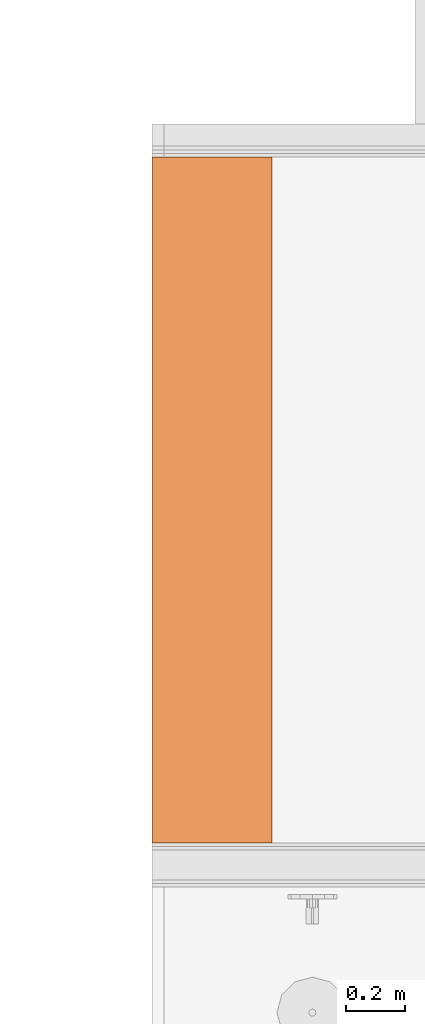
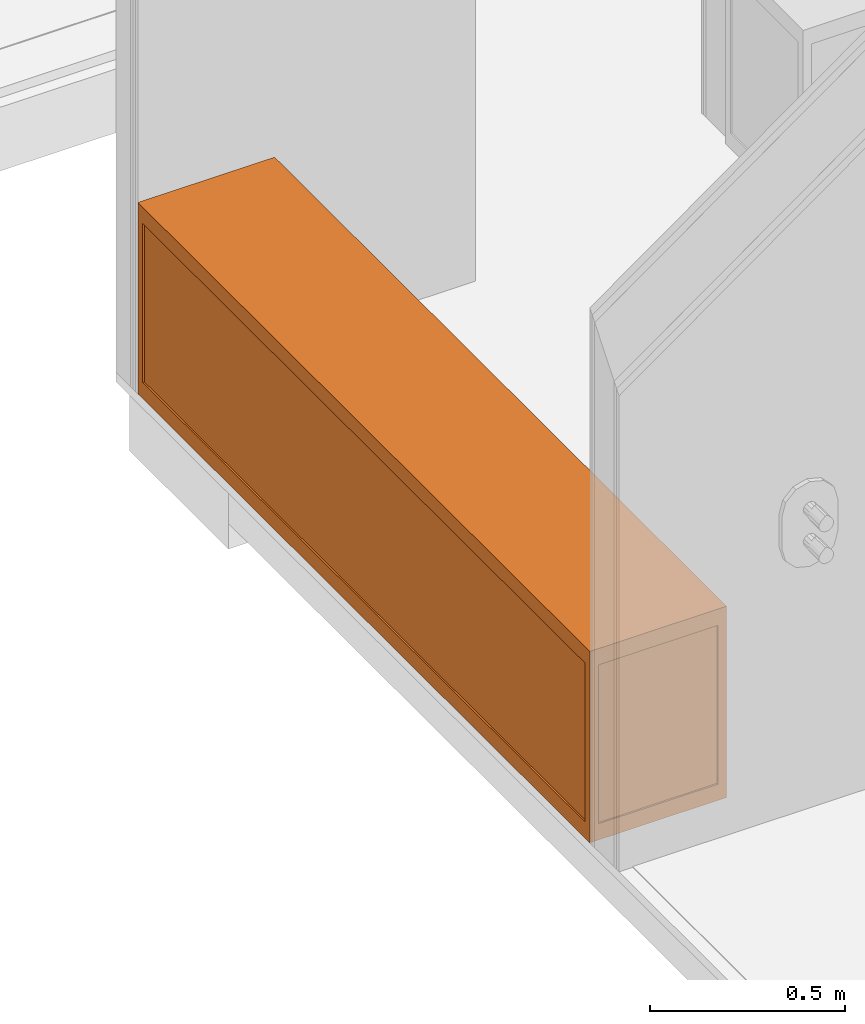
# One storey, part 33 of 35: 1 proxy.
"""IFC2X3 building model written with IfcOpenShell, lengths in millimetres."""

from ifc_helpers import new_model, entity, si_unit, converted_unit, derived_unit, money_unit, direction, frame, origin_with_axes, place, context, subcontext, project, spatial, faceted_brep, type_object, element, save


model = new_model("IFC2X3")

# Units and contexts
model_context = context("Model", 3, precision=0.01, world=origin_with_axes(), true_north=direction((0.0, 1.0)))
body_context = subcontext(model_context, "Body", "Model", "MODEL_VIEW")
ifc_project = project(units=[si_unit("LENGTHUNIT", "METRE", prefix="MILLI"), si_unit("AREAUNIT", "SQUARE_METRE"), si_unit("VOLUMEUNIT", "CUBIC_METRE"), converted_unit("PLANEANGLEUNIT", "DEGREE", entity("IfcPlaneAngleMeasure", 0.0174532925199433), si_unit("PLANEANGLEUNIT", "RADIAN"), dimensions=[0, 0, 0, 0, 0, 0, 0]), money_unit("EUR"), converted_unit("TIMEUNIT", "Year", entity("IfcTimeMeasure", 31557600.0), si_unit("TIMEUNIT", "SECOND"), dimensions=[0, 0, 1, 0, 0, 0, 0]), si_unit("MASSUNIT", "GRAM", prefix="KILO"), si_unit("THERMODYNAMICTEMPERATUREUNIT", "DEGREE_CELSIUS"), si_unit("LUMINOUSINTENSITYUNIT", "LUMEN"), si_unit("ENERGYUNIT", "JOULE", prefix="MEGA"), derived_unit("THERMALCONDUCTANCEUNIT", [(si_unit("POWERUNIT", "WATT"), 1), (si_unit("LENGTHUNIT", "METRE"), -1), (si_unit("THERMODYNAMICTEMPERATUREUNIT", "KELVIN"), -1)]), derived_unit("SPECIFICHEATCAPACITYUNIT", [(si_unit("ENERGYUNIT", "JOULE"), 1), (si_unit("MASSUNIT", "GRAM", prefix="KILO"), -1), (si_unit("THERMODYNAMICTEMPERATUREUNIT", "KELVIN"), -1)]), derived_unit("MASSDENSITYUNIT", [(si_unit("MASSUNIT", "GRAM", prefix="KILO"), 1), (si_unit("VOLUMEUNIT", "CUBIC_METRE"), -1)])], contexts=[model_context])

# Site, building, storey
site_placement = place(None, origin_with_axes())
site = spatial("IfcSite", under=ifc_project, at=site_placement, Name="<site naam>", CompositionType="ELEMENT")
building_placement = place(site_placement, origin_with_axes())
building = spatial("IfcBuilding", under=site, at=building_placement, Name="<Naam gebouw>", CompositionType="ELEMENT")
storey_placement = place(building_placement, frame((0.0, 0.0, 6345.0), z_axis=(0.0, 0.0, 1.0), x_axis=(1.0, 0.0, 0.0)))
storey = spatial("IfcBuildingStorey", under=building, at=storey_placement, Name="02 2e tussenverdieping", CompositionType="ELEMENT", Elevation=6345.0)

# Proxy
building_element_proxy_type = type_object("IfcBuildingElementProxyType", Name="Boekenkast 04 27 KM", PredefinedType="USERDEFINED")
proxy_placement = place(storey_placement, frame((52540.91710476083, 4572.500000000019, 0.0), z_axis=(0.0, 0.0, 1.0), x_axis=(0.0, 1.0, 0.0)))
element("IfcBuildingElementProxy", 1, at=proxy_placement, inside=storey, type_object=building_element_proxy_type, Name="72_Brandslanghaspelkast_Lege", ObjectType="Massing", context=body_context, shape_type="Brep", body=[
    faceted_brep([(0.0, 0.0, 0.0), (0.0, 0.0, 600.0), (-25.4, 0.0, 600.0), (-25.4, 0.0, 0.0), (0.0, 25.4, 0.0), (0.0, 25.4, 600.0), (-5.0, 25.4, 600.0), (-5.0, 5.0, 600.0), (-25.4, 5.0, 600.0), (-25.4, 5.0, 0.0), (-5.0, 5.0, 0.0), (-5.0, 25.4, 0.0)], [[[0, 1, 2, 3]], [[4, 5, 1, 0]], [[1, 5, 6, 7, 8, 2]], [[3, 2, 8, 9]], [[0, 3, 9, 10, 11, 4]], [[11, 6, 5, 4]], [[10, 7, 6, 11]], [[9, 8, 7, 10]]]),
    faceted_brep([(-2322.499907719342, 25.4, 0.0), (-2322.499907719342, 25.4, 600.0), (-2317.499907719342, 25.4, 600.0), (-2317.499907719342, 25.4, 0.0), (-2322.499907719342, 0.0, 0.0), (-2322.499907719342, 0.0, 600.0), (-2297.099907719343, 0.0, 600.0), (-2297.099907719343, 5.0, 600.0), (-2317.499907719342, 5.0, 600.0), (-2317.499907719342, 5.0, 0.0), (-2297.099907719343, 5.0, 0.0), (-2297.099907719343, 0.0, 0.0)], [[[0, 1, 2, 3]], [[4, 5, 1, 0]], [[1, 5, 6, 7, 8, 2]], [[3, 2, 8, 9]], [[0, 3, 9, 10, 11, 4]], [[11, 6, 5, 4]], [[10, 7, 6, 11]], [[9, 8, 7, 10]]]),
    faceted_brep([(0.0, 380.5171133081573, 0.0), (0.0, 380.5171133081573, 600.0), (-5.0, 380.5171133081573, 600.0), (-5.0, 380.5171133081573, 0.0), (0.0, 405.9171133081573, 0.0), (0.0, 405.9171133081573, 600.0), (-25.4, 405.9171133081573, 600.0), (-25.4, 400.9171133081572, 600.0), (-5.0, 400.9171133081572, 600.0), (-5.0, 400.9171133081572, 0.0), (-25.4, 400.9171133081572, 0.0), (-25.4, 405.9171133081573, 0.0)], [[[0, 1, 2, 3]], [[4, 5, 1, 0]], [[1, 5, 6, 7, 8, 2]], [[3, 2, 8, 9]], [[0, 3, 9, 10, 11, 4]], [[11, 6, 5, 4]], [[10, 7, 6, 11]], [[9, 8, 7, 10]]]),
    faceted_brep([(-2322.499907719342, 405.9171133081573, 0.0), (-2322.499907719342, 405.9171133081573, 600.0), (-2297.099907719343, 405.9171133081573, 600.0), (-2297.099907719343, 405.9171133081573, 0.0), (-2322.499907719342, 380.5171133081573, 0.0), (-2322.499907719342, 380.5171133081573, 600.0), (-2317.499907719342, 380.5171133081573, 600.0), (-2317.499907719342, 400.9171133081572, 600.0), (-2297.099907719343, 400.9171133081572, 600.0), (-2297.099907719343, 400.9171133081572, 0.0), (-2317.499907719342, 400.9171133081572, 0.0), (-2317.499907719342, 380.5171133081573, 0.0)], [[[0, 1, 2, 3]], [[4, 5, 1, 0]], [[1, 5, 6, 7, 8, 2]], [[3, 2, 8, 9]], [[0, 3, 9, 10, 11, 4]], [[11, 6, 5, 4]], [[10, 7, 6, 11]], [[9, 8, 7, 10]]]),
    faceted_brep([(-5.0, 400.9171133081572, 0.0), (-5.0, 395.9171133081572, 0.0), (-2317.499907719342, 395.9171133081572, 0.0), (-2317.499907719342, 400.9171133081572, 0.0), (-5.0, 400.9171133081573, 549.2), (-5.0, 395.9171133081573, 549.2), (-2317.499907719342, 395.9171133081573, 549.2), (-2317.499907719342, 400.9171133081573, 549.2)], [[[0, 1, 2, 3]], [[4, 5, 1, 0]], [[1, 5, 6, 2]], [[3, 2, 6, 7]], [[0, 3, 7, 4]], [[7, 6, 5, 4]]]),
    faceted_brep([(-10.0, 395.9171133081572, 0.0), (-5.0, 395.9171133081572, 0.0), (-5.000000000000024, 5.000000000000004, 0.0), (-10.00000000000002, 5.000000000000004, 0.0), (-10.0, 395.9171133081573, 549.2), (-5.0, 395.9171133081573, 549.2), (-5.000000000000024, 5.00000000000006, 549.2), (-10.00000000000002, 5.00000000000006, 549.2)], [[[0, 1, 2, 3]], [[4, 5, 1, 0]], [[1, 5, 6, 2]], [[3, 2, 6, 7]], [[0, 3, 7, 4]], [[7, 6, 5, 4]]]),
    faceted_brep([(-2317.499907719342, 395.9171133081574, 0.0), (-2312.499907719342, 395.9171133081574, 0.0), (-2312.499907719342, 5.000000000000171, 0.0), (-2317.499907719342, 5.000000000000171, 0.0), (-2317.499907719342, 395.9171133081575, 549.2), (-2312.499907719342, 395.9171133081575, 549.2), (-2312.499907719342, 5.000000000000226, 549.2), (-2317.499907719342, 5.000000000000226, 549.2)], [[[0, 1, 2, 3]], [[4, 5, 1, 0]], [[1, 5, 6, 2]], [[3, 2, 6, 7]], [[0, 3, 7, 4]], [[7, 6, 5, 4]]]),
    faceted_brep([(-10.0, 10.0, 50.8), (-10.0, 10.0, 549.1999999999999), (-1161.249953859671, 10.0, 549.1999999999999), (-1161.249953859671, 10.0, 50.8), (-10.0, 15.0, 50.8), (-10.0, 15.0, 549.1999999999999), (-1161.249953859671, 15.0, 549.1999999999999), (-1161.249953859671, 15.0, 50.8)], [[[0, 1, 2, 3]], [[4, 5, 1, 0]], [[1, 5, 6, 2]], [[3, 2, 6, 7]], [[0, 3, 7, 4]], [[7, 6, 5, 4]]]),
    faceted_brep([(-1161.249953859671, 5.0, 50.8), (-1161.249953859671, 5.0, 549.1999999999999), (-2312.499907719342, 5.0, 549.1999999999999), (-2312.499907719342, 5.0, 50.8), (-1161.249953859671, 10.0, 50.8), (-1161.249953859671, 10.0, 549.1999999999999), (-2312.499907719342, 10.0, 549.1999999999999), (-2312.499907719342, 10.0, 50.8)], [[[0, 1, 2, 3]], [[4, 5, 1, 0]], [[1, 5, 6, 2]], [[3, 2, 6, 7]], [[0, 3, 7, 4]], [[7, 6, 5, 4]]]),
    faceted_brep([(-80.17211629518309, 10.00000000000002, 297.395277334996), (-80.4, 10.00000000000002, 300.0), (-80.17211629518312, 10.00000000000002, 302.6047226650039), (-79.49538931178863, 10.00000000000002, 305.130302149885), (-78.39038105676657, 10.00000000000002, 307.5), (-76.89066664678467, 10.00000000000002, 309.641814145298), (-75.04181414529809, 10.00000000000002, 311.4906666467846), (-72.89999999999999, 10.00000000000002, 312.9903810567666), (-70.53030214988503, 10.00000000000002, 314.0953893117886), (-68.00472266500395, 10.00000000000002, 314.7721162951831), (-65.4, 10.00000000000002, 315.0), (-62.79527733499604, 10.00000000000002, 314.7721162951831), (-60.26969785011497, 10.00000000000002, 314.0953893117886), (-57.90000000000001, 10.00000000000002, 312.9903810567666), (-55.75818585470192, 10.00000000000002, 311.4906666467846), (-53.90933335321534, 10.00000000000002, 309.641814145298), (-52.40961894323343, 10.00000000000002, 307.5), (-51.30461068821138, 10.00000000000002, 305.130302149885), (-50.62788370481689, 10.00000000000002, 302.6047226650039), (-50.40000000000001, 10.00000000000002, 300.0), (-50.62788370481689, 10.00000000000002, 297.395277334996), (-51.30461068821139, 10.00000000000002, 294.869697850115), (-52.40961894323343, 10.00000000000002, 292.5), (-53.90933335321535, 10.00000000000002, 290.3581858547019), (-55.75818585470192, 10.00000000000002, 288.5093333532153), (-57.90000000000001, 10.00000000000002, 287.0096189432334), (-60.26969785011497, 10.00000000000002, 285.9046106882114), (-62.79527733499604, 10.00000000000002, 285.2278837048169), (-65.4, 10.00000000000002, 285.0000000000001), (-68.00472266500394, 10.00000000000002, 285.2278837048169), (-70.53030214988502, 10.00000000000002, 285.9046106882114), (-72.89999999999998, 10.00000000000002, 287.0096189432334), (-75.04181414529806, 10.00000000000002, 288.5093333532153), (-76.89066664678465, 10.00000000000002, 290.3581858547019), (-78.39038105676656, 10.00000000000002, 292.5), (-79.4953893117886, 10.00000000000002, 294.869697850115), (-80.17211629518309, 8.00000000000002, 297.395277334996), (-80.4, 8.00000000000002, 300.0), (-80.17211629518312, 8.00000000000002, 302.6047226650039), (-79.49538931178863, 8.00000000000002, 305.130302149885), (-78.39038105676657, 8.00000000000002, 307.5), (-76.89066664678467, 8.00000000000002, 309.641814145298), (-75.04181414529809, 8.000000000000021, 311.4906666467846), (-72.89999999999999, 8.000000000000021, 312.9903810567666), (-70.53030214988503, 8.000000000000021, 314.0953893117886), (-68.00472266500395, 8.000000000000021, 314.7721162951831), (-65.4, 8.000000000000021, 315.0), (-62.79527733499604, 8.000000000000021, 314.7721162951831), (-60.26969785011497, 8.000000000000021, 314.0953893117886), (-57.90000000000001, 8.000000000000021, 312.9903810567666), (-55.75818585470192, 8.000000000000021, 311.4906666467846), (-53.90933335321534, 8.00000000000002, 309.641814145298), (-52.40961894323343, 8.00000000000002, 307.5), (-51.30461068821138, 8.00000000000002, 305.130302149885), (-50.62788370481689, 8.00000000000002, 302.6047226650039), (-50.40000000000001, 8.00000000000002, 300.0), (-50.62788370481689, 8.00000000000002, 297.395277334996), (-51.30461068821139, 8.00000000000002, 294.869697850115), (-52.40961894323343, 8.00000000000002, 292.5), (-53.90933335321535, 8.00000000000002, 290.3581858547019), (-55.75818585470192, 8.000000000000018, 288.5093333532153), (-57.90000000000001, 8.000000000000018, 287.0096189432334), (-60.26969785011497, 8.000000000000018, 285.9046106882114), (-62.79527733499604, 8.000000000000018, 285.2278837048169), (-65.4, 8.000000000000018, 285.0000000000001), (-68.00472266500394, 8.000000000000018, 285.2278837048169), (-70.53030214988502, 8.000000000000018, 285.9046106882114), (-72.89999999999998, 8.000000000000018, 287.0096189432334), (-75.04181414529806, 8.000000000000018, 288.5093333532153), (-76.89066664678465, 8.00000000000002, 290.3581858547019), (-78.39038105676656, 8.00000000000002, 292.5), (-79.4953893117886, 8.00000000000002, 294.869697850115)], [[[0, 1, 2, 3, 4, 5, 6, 7, 8, 9, 10, 11, 12, 13, 14, 15, 16, 17, 18, 19, 20, 21, 22, 23, 24, 25, 26, 27, 28, 29, 30, 31, 32, 33, 34, 35]], [[0, 36, 37, 1]], [[1, 37, 38, 2]], [[2, 38, 39, 3]], [[3, 39, 40, 4]], [[4, 40, 41, 5]], [[5, 41, 42, 6]], [[6, 42, 43, 7]], [[7, 43, 44, 8]], [[8, 44, 45, 9]], [[9, 45, 46, 10]], [[10, 46, 47, 11]], [[11, 47, 48, 12]], [[12, 48, 49, 13]], [[13, 49, 50, 14]], [[14, 50, 51, 15]], [[15, 51, 52, 16]], [[16, 52, 53, 17]], [[17, 53, 54, 18]], [[18, 54, 55, 19]], [[19, 55, 56, 20]], [[20, 56, 57, 21]], [[21, 57, 58, 22]], [[22, 58, 59, 23]], [[23, 59, 60, 24]], [[24, 60, 61, 25]], [[25, 61, 62, 26]], [[26, 62, 63, 27]], [[27, 63, 64, 28]], [[28, 64, 65, 29]], [[29, 65, 66, 30]], [[30, 66, 67, 31]], [[31, 67, 68, 32]], [[32, 68, 69, 33]], [[33, 69, 70, 34]], [[34, 70, 71, 35]], [[35, 71, 36, 0]], [[36, 71, 70, 69, 68, 67, 66, 65, 64, 63, 62, 61, 60, 59, 58, 57, 56, 55, 54, 53, 52, 51, 50, 49, 48, 47, 46, 45, 44, 43, 42, 41, 40, 39, 38, 37]]]),
    faceted_brep([(-2271.872024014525, 5.00000000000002, 297.395277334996), (-2272.099907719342, 5.00000000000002, 300.0), (-2271.872024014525, 5.00000000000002, 302.6047226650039), (-2271.195297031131, 5.00000000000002, 305.130302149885), (-2270.090288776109, 5.00000000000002, 307.5), (-2268.590574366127, 5.00000000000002, 309.641814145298), (-2266.74172186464, 5.00000000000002, 311.4906666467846), (-2264.599907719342, 5.00000000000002, 312.9903810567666), (-2262.230209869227, 5.00000000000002, 314.0953893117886), (-2259.704630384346, 5.00000000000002, 314.7721162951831), (-2257.099907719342, 5.00000000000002, 315.0), (-2254.495185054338, 5.00000000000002, 314.7721162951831), (-2251.969605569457, 5.00000000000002, 314.0953893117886), (-2249.599907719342, 5.00000000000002, 312.9903810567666), (-2247.458093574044, 5.00000000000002, 311.4906666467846), (-2245.609241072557, 5.00000000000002, 309.641814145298), (-2244.109526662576, 5.00000000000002, 307.5), (-2243.004518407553, 5.00000000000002, 305.130302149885), (-2242.327791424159, 5.00000000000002, 302.6047226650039), (-2242.099907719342, 5.00000000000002, 300.0), (-2242.327791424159, 5.00000000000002, 297.395277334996), (-2243.004518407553, 5.00000000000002, 294.869697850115), (-2244.109526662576, 5.000000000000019, 292.5), (-2245.609241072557, 5.000000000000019, 290.3581858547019), (-2247.458093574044, 5.000000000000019, 288.5093333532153), (-2249.599907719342, 5.000000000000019, 287.0096189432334), (-2251.969605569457, 5.000000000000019, 285.9046106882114), (-2254.495185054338, 5.000000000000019, 285.2278837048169), (-2257.099907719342, 5.000000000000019, 285.0000000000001), (-2259.704630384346, 5.000000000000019, 285.2278837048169), (-2262.230209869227, 5.000000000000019, 285.9046106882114), (-2264.599907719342, 5.000000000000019, 287.0096189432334), (-2266.74172186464, 5.000000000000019, 288.5093333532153), (-2268.590574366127, 5.000000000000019, 290.3581858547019), (-2270.090288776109, 5.000000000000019, 292.5), (-2271.195297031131, 5.00000000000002, 294.869697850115), (-2271.872024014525, 3.000000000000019, 297.395277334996), (-2272.099907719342, 3.000000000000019, 300.0), (-2271.872024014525, 3.000000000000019, 302.6047226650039), (-2271.195297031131, 3.00000000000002, 305.130302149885), (-2270.090288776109, 3.00000000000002, 307.5), (-2268.590574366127, 3.00000000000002, 309.641814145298), (-2266.74172186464, 3.00000000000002, 311.4906666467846), (-2264.599907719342, 3.00000000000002, 312.9903810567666), (-2262.230209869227, 3.00000000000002, 314.0953893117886), (-2259.704630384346, 3.00000000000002, 314.7721162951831), (-2257.099907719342, 3.00000000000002, 315.0), (-2254.495185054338, 3.00000000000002, 314.7721162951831), (-2251.969605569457, 3.00000000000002, 314.0953893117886), (-2249.599907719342, 3.00000000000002, 312.9903810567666), (-2247.458093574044, 3.00000000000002, 311.4906666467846), (-2245.609241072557, 3.00000000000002, 309.641814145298), (-2244.109526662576, 3.00000000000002, 307.5), (-2243.004518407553, 3.00000000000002, 305.130302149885), (-2242.327791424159, 3.000000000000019, 302.6047226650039), (-2242.099907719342, 3.000000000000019, 300.0), (-2242.327791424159, 3.000000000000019, 297.395277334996), (-2243.004518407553, 3.000000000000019, 294.869697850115), (-2244.109526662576, 3.000000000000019, 292.5), (-2245.609241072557, 3.000000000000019, 290.3581858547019), (-2247.458093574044, 3.000000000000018, 288.5093333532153), (-2249.599907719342, 3.000000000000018, 287.0096189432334), (-2251.969605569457, 3.000000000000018, 285.9046106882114), (-2254.495185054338, 3.000000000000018, 285.2278837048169), (-2257.099907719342, 3.000000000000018, 285.0000000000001), (-2259.704630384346, 3.000000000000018, 285.2278837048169), (-2262.230209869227, 3.000000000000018, 285.9046106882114), (-2264.599907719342, 3.000000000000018, 287.0096189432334), (-2266.74172186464, 3.000000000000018, 288.5093333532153), (-2268.590574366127, 3.000000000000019, 290.3581858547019), (-2270.090288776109, 3.000000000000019, 292.5), (-2271.195297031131, 3.000000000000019, 294.869697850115)], [[[0, 1, 2, 3, 4, 5, 6, 7, 8, 9, 10, 11, 12, 13, 14, 15, 16, 17, 18, 19, 20, 21, 22, 23, 24, 25, 26, 27, 28, 29, 30, 31, 32, 33, 34, 35]], [[0, 36, 37, 1]], [[1, 37, 38, 2]], [[2, 38, 39, 3]], [[3, 39, 40, 4]], [[4, 40, 41, 5]], [[5, 41, 42, 6]], [[6, 42, 43, 7]], [[7, 43, 44, 8]], [[8, 44, 45, 9]], [[9, 45, 46, 10]], [[10, 46, 47, 11]], [[11, 47, 48, 12]], [[12, 48, 49, 13]], [[13, 49, 50, 14]], [[14, 50, 51, 15]], [[15, 51, 52, 16]], [[16, 52, 53, 17]], [[17, 53, 54, 18]], [[18, 54, 55, 19]], [[19, 55, 56, 20]], [[20, 56, 57, 21]], [[21, 57, 58, 22]], [[22, 58, 59, 23]], [[23, 59, 60, 24]], [[24, 60, 61, 25]], [[25, 61, 62, 26]], [[26, 62, 63, 27]], [[27, 63, 64, 28]], [[28, 64, 65, 29]], [[29, 65, 66, 30]], [[30, 66, 67, 31]], [[31, 67, 68, 32]], [[32, 68, 69, 33]], [[33, 69, 70, 34]], [[34, 70, 71, 35]], [[35, 71, 36, 0]], [[36, 71, 70, 69, 68, 67, 66, 65, 64, 63, 62, 61, 60, 59, 58, 57, 56, 55, 54, 53, 52, 51, 50, 49, 48, 47, 46, 45, 44, 43, 42, 41, 40, 39, 38, 37]]]),
    faceted_brep([(-25.4, 405.9171133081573, 0.0), (-25.4, 405.9171133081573, 50.8), (-25.4, 400.9171133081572, 50.8), (-25.4, 400.9171133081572, 0.0), (-2297.099907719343, 405.9171133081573, 0.0), (-2297.099907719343, 405.9171133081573, 50.8), (-2297.099907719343, 400.9171133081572, 50.8), (-2297.099907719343, 400.9171133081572, 0.0)], [[[0, 1, 2, 3]], [[4, 5, 1, 0]], [[1, 5, 6, 2]], [[3, 2, 6, 7]], [[0, 3, 7, 4]], [[7, 6, 5, 4]]]),
    faceted_brep([(0.0, 25.4, 0.0), (0.0, 25.4, 50.8), (-5.0, 25.4, 50.8), (-5.0, 25.4, 0.0), (0.0, 380.5171133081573, 0.0), (0.0, 380.5171133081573, 50.8), (-5.0, 380.5171133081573, 50.8), (-5.0, 380.5171133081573, 0.0)], [[[0, 1, 2, 3]], [[4, 5, 1, 0]], [[1, 5, 6, 2]], [[3, 2, 6, 7]], [[0, 3, 7, 4]], [[7, 6, 5, 4]]]),
    faceted_brep([(-2322.499907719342, 380.5171133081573, 0.0), (-2322.499907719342, 380.5171133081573, 50.8), (-2317.499907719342, 380.5171133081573, 50.8), (-2317.499907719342, 380.5171133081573, 0.0), (-2322.499907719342, 25.4, 0.0), (-2322.499907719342, 25.4, 50.8), (-2317.499907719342, 25.4, 50.8), (-2317.499907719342, 25.4, 0.0)], [[[0, 1, 2, 3]], [[4, 5, 1, 0]], [[1, 5, 6, 2]], [[3, 2, 6, 7]], [[0, 3, 7, 4]], [[7, 6, 5, 4]]]),
    faceted_brep([(-2297.099907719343, 0.0, 0.0), (-2297.099907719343, 0.0, 50.8), (-2297.099907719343, 5.0, 50.8), (-2297.099907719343, 5.0, 0.0), (-25.4, 0.0, 0.0), (-25.4, 0.0, 50.8), (-25.4, 5.0, 50.8), (-10.0, 5.0, 50.8), (-10.0, 20.0, 50.8), (-2312.499907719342, 20.0, 50.8), (-2312.499907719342, 5.0, 50.8), (-2312.499907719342, 5.0, 0.0), (-2312.499907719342, 20.0, 0.0), (-10.0, 20.0, 0.0), (-10.0, 5.0, 0.0), (-25.4, 5.0, 0.0)], [[[0, 1, 2, 3]], [[4, 5, 1, 0]], [[1, 5, 6, 7, 8, 9, 10, 2]], [[3, 2, 10, 11]], [[0, 3, 11, 12, 13, 14, 15, 4]], [[15, 6, 5, 4]], [[14, 7, 6, 15]], [[13, 8, 7, 14]], [[12, 9, 8, 13]], [[11, 10, 9, 12]]]),
    faceted_brep([(-10.0, 10.0, 549.2), (-10.0, 10.0, 600.0), (-2312.499907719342, 10.0, 600.0), (-2312.499907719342, 10.0, 549.2), (-10.0, 395.9171133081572, 549.2), (-10.0, 395.9171133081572, 600.0), (-2312.499907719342, 395.9171133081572, 600.0), (-2312.499907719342, 395.9171133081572, 549.2)], [[[0, 1, 2, 3]], [[4, 5, 1, 0]], [[1, 5, 6, 2]], [[3, 2, 6, 7]], [[0, 3, 7, 4]], [[7, 6, 5, 4]]]),
    faceted_brep([(0.0, 25.4, 549.2), (0.0, 25.4, 600.0), (-5.0, 25.4, 600.0), (-5.0, 25.4, 549.2), (0.0, 380.5171133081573, 549.2), (0.0, 380.5171133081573, 600.0), (-5.0, 380.5171133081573, 600.0), (-5.0, 400.9171133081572, 600.0), (-10.0, 395.9171133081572, 600.0), (-10.0, 10.0, 600.0), (-5.0, 5.0, 600.0), (-5.0, 5.0, 549.2), (-10.0, 10.0, 549.2), (-10.0, 395.9171133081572, 549.2), (-5.0, 400.9171133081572, 549.2), (-5.0, 380.5171133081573, 549.2)], [[[0, 1, 2, 3]], [[4, 5, 1, 0]], [[1, 5, 6, 7, 8, 9, 10, 2]], [[3, 2, 10, 11]], [[0, 3, 11, 12, 13, 14, 15, 4]], [[15, 6, 5, 4]], [[14, 7, 6, 15]], [[13, 8, 7, 14]], [[12, 9, 8, 13]], [[11, 10, 9, 12]]]),
    faceted_brep([(-2322.499907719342, 380.5171133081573, 549.2), (-2322.499907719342, 380.5171133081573, 600.0), (-2317.499907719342, 380.5171133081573, 600.0), (-2317.499907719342, 380.5171133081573, 549.2), (-2322.499907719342, 25.4, 549.2), (-2322.499907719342, 25.4, 600.0), (-2317.499907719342, 25.4, 600.0), (-2317.499907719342, 5.0, 600.0), (-2312.499907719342, 10.0, 600.0), (-2312.499907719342, 395.9171133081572, 600.0), (-2317.499907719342, 400.9171133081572, 600.0), (-2317.499907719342, 400.9171133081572, 549.2), (-2312.499907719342, 395.9171133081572, 549.2), (-2312.499907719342, 10.0, 549.2), (-2317.499907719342, 5.0, 549.2), (-2317.499907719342, 25.4, 549.2)], [[[0, 1, 2, 3]], [[4, 5, 1, 0]], [[1, 5, 6, 7, 8, 9, 10, 2]], [[3, 2, 10, 11]], [[0, 3, 11, 12, 13, 14, 15, 4]], [[15, 6, 5, 4]], [[14, 7, 6, 15]], [[13, 8, 7, 14]], [[12, 9, 8, 13]], [[11, 10, 9, 12]]]),
    faceted_brep([(-2297.099907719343, 0.0, 549.2), (-2297.099907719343, 0.0, 600.0), (-2297.099907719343, 5.0, 600.0), (-2297.099907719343, 5.0, 549.2), (-25.4, 0.0, 549.2), (-25.4, 0.0, 600.0), (-25.4, 5.0, 600.0), (-5.0, 5.0, 600.0), (-10.0, 10.0, 600.0), (-2312.499907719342, 10.0, 600.0), (-2317.499907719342, 5.0, 600.0), (-2317.499907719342, 5.0, 549.2), (-2312.499907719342, 10.0, 549.2), (-10.0, 10.0, 549.2), (-5.0, 5.0, 549.2), (-25.4, 5.0, 549.2)], [[[0, 1, 2, 3]], [[4, 5, 1, 0]], [[1, 5, 6, 7, 8, 9, 10, 2]], [[3, 2, 10, 11]], [[0, 3, 11, 12, 13, 14, 15, 4]], [[15, 6, 5, 4]], [[14, 7, 6, 15]], [[13, 8, 7, 14]], [[12, 9, 8, 13]], [[11, 10, 9, 12]]]),
    faceted_brep([(-25.4, 405.9171133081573, 549.2), (-25.4, 405.9171133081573, 600.0), (-25.4, 400.9171133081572, 600.0), (-25.4, 400.9171133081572, 549.2), (-2297.099907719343, 405.9171133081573, 549.2), (-2297.099907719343, 405.9171133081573, 600.0), (-2297.099907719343, 400.9171133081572, 600.0), (-2317.499907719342, 400.9171133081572, 600.0), (-2312.499907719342, 395.9171133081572, 600.0), (-10.0, 395.9171133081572, 600.0), (-5.0, 400.9171133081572, 600.0), (-5.0, 400.9171133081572, 549.2), (-10.0, 395.9171133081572, 549.2), (-2312.499907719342, 395.9171133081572, 549.2), (-2317.499907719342, 400.9171133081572, 549.2), (-2297.099907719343, 400.9171133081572, 549.2)], [[[0, 1, 2, 3]], [[4, 5, 1, 0]], [[1, 5, 6, 7, 8, 9, 10, 2]], [[3, 2, 10, 11]], [[0, 3, 11, 12, 13, 14, 15, 4]], [[15, 6, 5, 4]], [[14, 7, 6, 15]], [[13, 8, 7, 14]], [[12, 9, 8, 13]], [[11, 10, 9, 12]]]),
])

save(model, "model.ifc")
